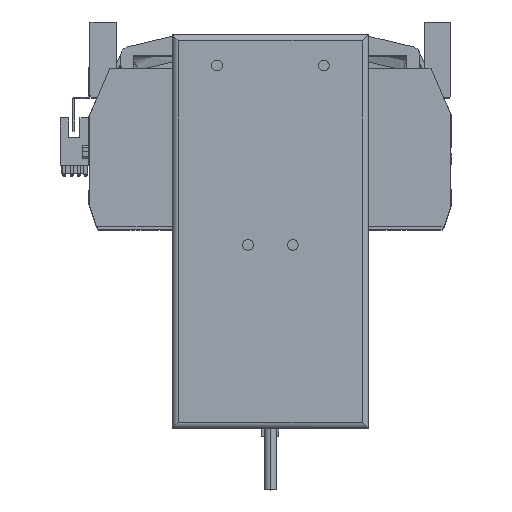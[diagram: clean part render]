
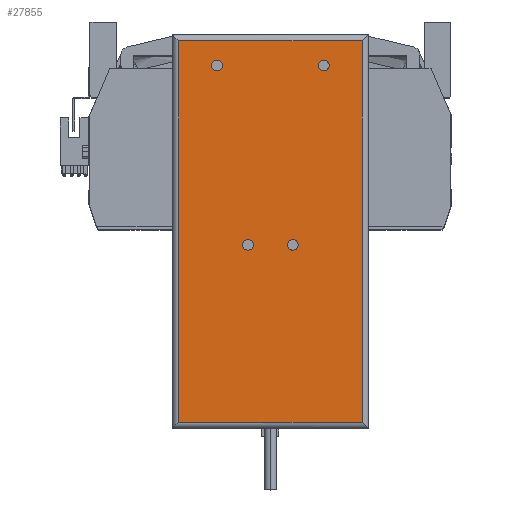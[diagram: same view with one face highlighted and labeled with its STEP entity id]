
A CAD part, top view. The second image highlights one B-rep face of the part: STEP entity #27855.
In plain terms, the highlighted planar face has unit normal (0, 0, 1) as drawn and (0, 0, -1) by its records, which use the part's own axes.
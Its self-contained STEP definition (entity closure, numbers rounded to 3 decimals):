
#98 = EDGE_CURVE ( 'NONE', #40767, #20033, #28383, .T. ) ;
#243 = AXIS2_PLACEMENT_3D ( 'NONE', #2608, #24523, #10214 ) ;
#385 = EDGE_CURVE ( 'NONE', #41855, #31013, #8893, .T. ) ;
#1472 = CARTESIAN_POINT ( 'NONE',  ( -46., -89.25, 0. ) ) ;
#1774 = CARTESIAN_POINT ( 'NONE',  ( 13., -6.25, 0. ) ) ;
#2243 = VECTOR ( 'NONE', #6484, 1000. ) ;
#2608 = CARTESIAN_POINT ( 'NONE',  ( -25., 77.75, 0. ) ) ;
#3938 = FACE_BOUND ( 'NONE', #44153, .T. ) ;
#4492 = ORIENTED_EDGE ( 'NONE', *, *, #98, .F. ) ;
#4537 = DIRECTION ( 'NONE',  ( 0., 0., -1. ) ) ;
#4799 = EDGE_CURVE ( 'NONE', #38936, #4802, #14649, .T. ) ;
#4802 = VERTEX_POINT ( 'NONE', #17366 ) ;
#5622 = DIRECTION ( 'NONE',  ( 0., 0., -1. ) ) ;
#5790 = DIRECTION ( 'NONE',  ( -1., 0., 0. ) ) ;
#6001 = CARTESIAN_POINT ( 'NONE',  ( 43., -92.25, 0. ) ) ;
#6351 = CARTESIAN_POINT ( 'NONE',  ( -43., -89.25, 0. ) ) ;
#6484 = DIRECTION ( 'NONE',  ( 1., 0., 0. ) ) ;
#6581 = CARTESIAN_POINT ( 'NONE',  ( 43., 89.25, 0. ) ) ;
#6976 = CARTESIAN_POINT ( 'NONE',  ( -22.5, 77.75, 0. ) ) ;
#7204 = ORIENTED_EDGE ( 'NONE', *, *, #28487, .F. ) ;
#8893 = LINE ( 'NONE', #1472, #27835 ) ;
#9059 = DIRECTION ( 'NONE',  ( -1., 0., 0. ) ) ;
#9566 = VERTEX_POINT ( 'NONE', #26964 ) ;
#9731 = EDGE_LOOP ( 'NONE', ( #40001, #45383, #16296, #11728 ) ) ;
#10214 = DIRECTION ( 'NONE',  ( -1., 0., 0. ) ) ;
#10438 = ORIENTED_EDGE ( 'NONE', *, *, #29479, .F. ) ;
#11191 = LINE ( 'NONE', #36310, #27882 ) ;
#11270 = VERTEX_POINT ( 'NONE', #6976 ) ;
#11592 = ORIENTED_EDGE ( 'NONE', *, *, #17788, .F. ) ;
#11652 = CIRCLE ( 'NONE', #21528, 2.5 ) ;
#11728 = ORIENTED_EDGE ( 'NONE', *, *, #14389, .T. ) ;
#12006 = AXIS2_PLACEMENT_3D ( 'NONE', #20723, #31181, #34779 ) ;
#12903 = CARTESIAN_POINT ( 'NONE',  ( -13., -6.25, 0. ) ) ;
#14389 = EDGE_CURVE ( 'NONE', #23174, #46250, #43515, .T. ) ;
#14495 = EDGE_LOOP ( 'NONE', ( #14510, #7204 ) ) ;
#14510 = ORIENTED_EDGE ( 'NONE', *, *, #4799, .F. ) ;
#14649 = CIRCLE ( 'NONE', #32124, 2.5 ) ;
#15621 = FACE_OUTER_BOUND ( 'NONE', #9731, .T. ) ;
#16296 = ORIENTED_EDGE ( 'NONE', *, *, #27103, .T. ) ;
#16427 = AXIS2_PLACEMENT_3D ( 'NONE', #27442, #19834, #44773 ) ;
#17366 = CARTESIAN_POINT ( 'NONE',  ( -8., -6.25, 0. ) ) ;
#17404 = EDGE_CURVE ( 'NONE', #11270, #23306, #39627, .T. ) ;
#17788 = EDGE_CURVE ( 'NONE', #27986, #9566, #41804, .T. ) ;
#17857 = FACE_BOUND ( 'NONE', #21765, .T. ) ;
#18388 = EDGE_CURVE ( 'NONE', #23306, #11270, #38968, .T. ) ;
#18578 = CARTESIAN_POINT ( 'NONE',  ( 22.5, 77.75, 0. ) ) ;
#19698 = DIRECTION ( 'NONE',  ( -1., 0., 0. ) ) ;
#19795 = CARTESIAN_POINT ( 'NONE',  ( -43., 89.25, 0. ) ) ;
#19834 = DIRECTION ( 'NONE',  ( 0., 0., 1. ) ) ;
#20033 = VERTEX_POINT ( 'NONE', #1774 ) ;
#20079 = DIRECTION ( 'NONE',  ( -1., 0., 0. ) ) ;
#20149 = CARTESIAN_POINT ( 'NONE',  ( 25., 77.75, 0. ) ) ;
#20319 = DIRECTION ( 'NONE',  ( -1., 0., 0. ) ) ;
#20723 = CARTESIAN_POINT ( 'NONE',  ( -10.5, -6.25, 0. ) ) ;
#21196 = FACE_BOUND ( 'NONE', #39288, .T. ) ;
#21528 = AXIS2_PLACEMENT_3D ( 'NONE', #25696, #4537, #22263 ) ;
#21765 = EDGE_LOOP ( 'NONE', ( #21929, #43244 ) ) ;
#21929 = ORIENTED_EDGE ( 'NONE', *, *, #18388, .F. ) ;
#22263 = DIRECTION ( 'NONE',  ( -1., 0., 0. ) ) ;
#23174 = VERTEX_POINT ( 'NONE', #19795 ) ;
#23306 = VERTEX_POINT ( 'NONE', #45200 ) ;
#23865 = PLANE ( 'NONE',  #16427 ) ;
#24359 = DIRECTION ( 'NONE',  ( -1., 0., 0. ) ) ;
#24523 = DIRECTION ( 'NONE',  ( 0., 0., -1. ) ) ;
#24719 = AXIS2_PLACEMENT_3D ( 'NONE', #30855, #38189, #5790 ) ;
#25696 = CARTESIAN_POINT ( 'NONE',  ( 10.5, -6.25, 0. ) ) ;
#26923 = CARTESIAN_POINT ( 'NONE',  ( 10.5, -6.25, 0. ) ) ;
#26964 = CARTESIAN_POINT ( 'NONE',  ( 27.5, 77.75, 0. ) ) ;
#27103 = EDGE_CURVE ( 'NONE', #31013, #23174, #11191, .T. ) ;
#27442 = CARTESIAN_POINT ( 'NONE',  ( -46., -92.25, 0. ) ) ;
#27458 = DIRECTION ( 'NONE',  ( 0., -1., 0. ) ) ;
#27719 = AXIS2_PLACEMENT_3D ( 'NONE', #41044, #45247, #19698 ) ;
#27835 = VECTOR ( 'NONE', #9059, 1000. ) ;
#27855 = ADVANCED_FACE ( 'NONE', ( #15621, #28986, #21196, #17857, #3938 ), #23865, .F. ) ;
#27882 = VECTOR ( 'NONE', #32562, 1000. ) ;
#27986 = VERTEX_POINT ( 'NONE', #18578 ) ;
#28383 = CIRCLE ( 'NONE', #33152, 2.5 ) ;
#28487 = EDGE_CURVE ( 'NONE', #4802, #38936, #45092, .T. ) ;
#28741 = EDGE_CURVE ( 'NONE', #20033, #40767, #11652, .T. ) ;
#28986 = FACE_BOUND ( 'NONE', #14495, .T. ) ;
#29479 = EDGE_CURVE ( 'NONE', #9566, #27986, #42826, .T. ) ;
#30855 = CARTESIAN_POINT ( 'NONE',  ( -25., 77.75, 0. ) ) ;
#31013 = VERTEX_POINT ( 'NONE', #6351 ) ;
#31181 = DIRECTION ( 'NONE',  ( 0., 0., -1. ) ) ;
#32124 = AXIS2_PLACEMENT_3D ( 'NONE', #45582, #42322, #24359 ) ;
#32562 = DIRECTION ( 'NONE',  ( 0., 1., 0. ) ) ;
#32694 = VECTOR ( 'NONE', #27458, 1000. ) ;
#33152 = AXIS2_PLACEMENT_3D ( 'NONE', #26923, #5622, #20079 ) ;
#33246 = AXIS2_PLACEMENT_3D ( 'NONE', #20149, #34360, #20319 ) ;
#34360 = DIRECTION ( 'NONE',  ( 0., 0., -1. ) ) ;
#34779 = DIRECTION ( 'NONE',  ( -1., 0., 0. ) ) ;
#35161 = CARTESIAN_POINT ( 'NONE',  ( -46., 89.25, 0. ) ) ;
#36310 = CARTESIAN_POINT ( 'NONE',  ( -43., -92.25, 0. ) ) ;
#36974 = EDGE_CURVE ( 'NONE', #46250, #41855, #42181, .T. ) ;
#38189 = DIRECTION ( 'NONE',  ( 0., 0., -1. ) ) ;
#38936 = VERTEX_POINT ( 'NONE', #12903 ) ;
#38968 = CIRCLE ( 'NONE', #24719, 2.5 ) ;
#39288 = EDGE_LOOP ( 'NONE', ( #4492, #43748 ) ) ;
#39627 = CIRCLE ( 'NONE', #243, 2.5 ) ;
#40001 = ORIENTED_EDGE ( 'NONE', *, *, #36974, .T. ) ;
#40767 = VERTEX_POINT ( 'NONE', #44711 ) ;
#41044 = CARTESIAN_POINT ( 'NONE',  ( 25., 77.75, 0. ) ) ;
#41804 = CIRCLE ( 'NONE', #27719, 2.5 ) ;
#41855 = VERTEX_POINT ( 'NONE', #44566 ) ;
#42181 = LINE ( 'NONE', #6001, #32694 ) ;
#42322 = DIRECTION ( 'NONE',  ( 0., 0., -1. ) ) ;
#42826 = CIRCLE ( 'NONE', #33246, 2.5 ) ;
#43244 = ORIENTED_EDGE ( 'NONE', *, *, #17404, .F. ) ;
#43515 = LINE ( 'NONE', #35161, #2243 ) ;
#43748 = ORIENTED_EDGE ( 'NONE', *, *, #28741, .F. ) ;
#44153 = EDGE_LOOP ( 'NONE', ( #11592, #10438 ) ) ;
#44566 = CARTESIAN_POINT ( 'NONE',  ( 43., -89.25, 0. ) ) ;
#44711 = CARTESIAN_POINT ( 'NONE',  ( 8., -6.25, 0. ) ) ;
#44773 = DIRECTION ( 'NONE',  ( 1., 0., 0. ) ) ;
#45092 = CIRCLE ( 'NONE', #12006, 2.5 ) ;
#45200 = CARTESIAN_POINT ( 'NONE',  ( -27.5, 77.75, 0. ) ) ;
#45247 = DIRECTION ( 'NONE',  ( 0., 0., -1. ) ) ;
#45383 = ORIENTED_EDGE ( 'NONE', *, *, #385, .T. ) ;
#45582 = CARTESIAN_POINT ( 'NONE',  ( -10.5, -6.25, 0. ) ) ;
#46250 = VERTEX_POINT ( 'NONE', #6581 ) ;
